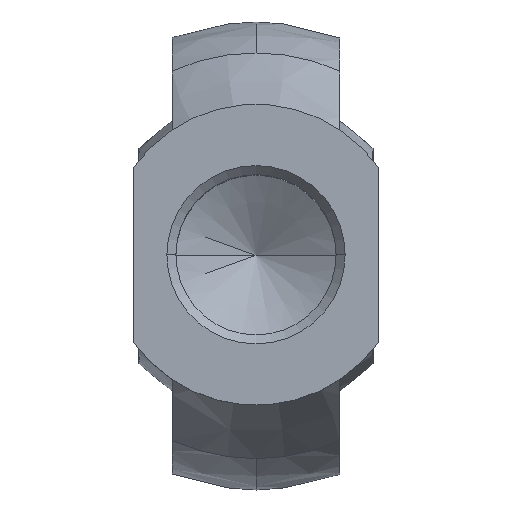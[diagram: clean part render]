
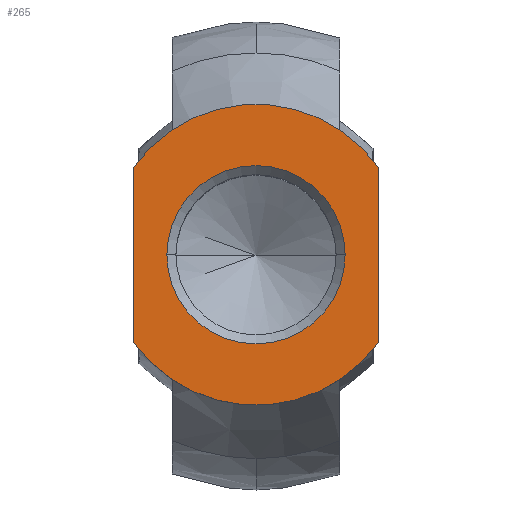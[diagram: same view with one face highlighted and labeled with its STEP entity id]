
A CAD part, top view. The second image highlights one B-rep face of the part: STEP entity #265.
In plain terms, the highlighted planar face has unit normal (0, 0, 1).
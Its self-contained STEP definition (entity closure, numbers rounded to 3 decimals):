
#27=PLANE('',#555);
#35=FACE_BOUND('',#106,.F.);
#72=FACE_OUTER_BOUND('',#107,.F.);
#106=EDGE_LOOP('',(#220,#221));
#107=EDGE_LOOP('',(#222,#223,#224,#225));
#220=ORIENTED_EDGE('',*,*,#390,.T.);
#221=ORIENTED_EDGE('',*,*,#389,.T.);
#222=ORIENTED_EDGE('',*,*,#386,.F.);
#223=ORIENTED_EDGE('',*,*,#383,.T.);
#224=ORIENTED_EDGE('',*,*,#387,.F.);
#225=ORIENTED_EDGE('',*,*,#388,.F.);
#265=ADVANCED_FACE('',(#35,#72),#27,.T.);
#287=LINE('',#861,#309);
#290=LINE('',#866,#312);
#309=VECTOR('',#579,15.652);
#312=VECTOR('',#586,15.652);
#335=CIRCLE('',#512,13.5);
#336=CIRCLE('',#513,13.5);
#337=CIRCLE('',#514,8.);
#338=CIRCLE('',#515,8.);
#383=EDGE_CURVE('',#463,#464,#287,.T.);
#386=EDGE_CURVE('',#463,#461,#335,.T.);
#387=EDGE_CURVE('',#460,#464,#336,.T.);
#388=EDGE_CURVE('',#461,#460,#290,.T.);
#389=EDGE_CURVE('',#459,#458,#337,.T.);
#390=EDGE_CURVE('',#458,#459,#338,.T.);
#458=VERTEX_POINT('',#722);
#459=VERTEX_POINT('',#723);
#460=VERTEX_POINT('',#724);
#461=VERTEX_POINT('',#725);
#463=VERTEX_POINT('',#727);
#464=VERTEX_POINT('',#728);
#512=AXIS2_PLACEMENT_3D('',#864,#582,#583);
#513=AXIS2_PLACEMENT_3D('',#865,#584,#585);
#514=AXIS2_PLACEMENT_3D('',#867,#587,#588);
#515=AXIS2_PLACEMENT_3D('',#868,#589,#590);
#555=AXIS2_PLACEMENT_3D('',#1128,#685,#686);
#579=DIRECTION('',(0.,-1.,0.));
#582=DIRECTION('',(0.,0.,1.));
#583=DIRECTION('',(0.815,0.58,0.));
#584=DIRECTION('',(0.,0.,1.));
#585=DIRECTION('',(-0.815,-0.58,0.));
#586=DIRECTION('',(0.,-1.,0.));
#587=DIRECTION('',(0.,0.,1.));
#588=DIRECTION('',(-1.,0.,0.));
#589=DIRECTION('',(0.,0.,1.));
#590=DIRECTION('',(1.,0.,0.));
#685=DIRECTION('',(0.,0.,1.));
#686=DIRECTION('',(-1.,0.,0.));
#722=CARTESIAN_POINT('',(8.,0.,0.));
#723=CARTESIAN_POINT('',(-8.,0.,0.));
#724=CARTESIAN_POINT('',(-11.,-7.826,0.));
#725=CARTESIAN_POINT('',(-11.,7.826,0.));
#727=CARTESIAN_POINT('',(11.,7.826,0.));
#728=CARTESIAN_POINT('',(11.,-7.826,0.));
#861=CARTESIAN_POINT('',(11.,7.826,0.));
#864=CARTESIAN_POINT('',(0.,0.,0.));
#865=CARTESIAN_POINT('',(0.,0.,0.));
#866=CARTESIAN_POINT('',(-11.,7.826,0.));
#867=CARTESIAN_POINT('',(0.,0.,0.));
#868=CARTESIAN_POINT('',(0.,0.,0.));
#1128=CARTESIAN_POINT('',(12.35,14.85,0.));
